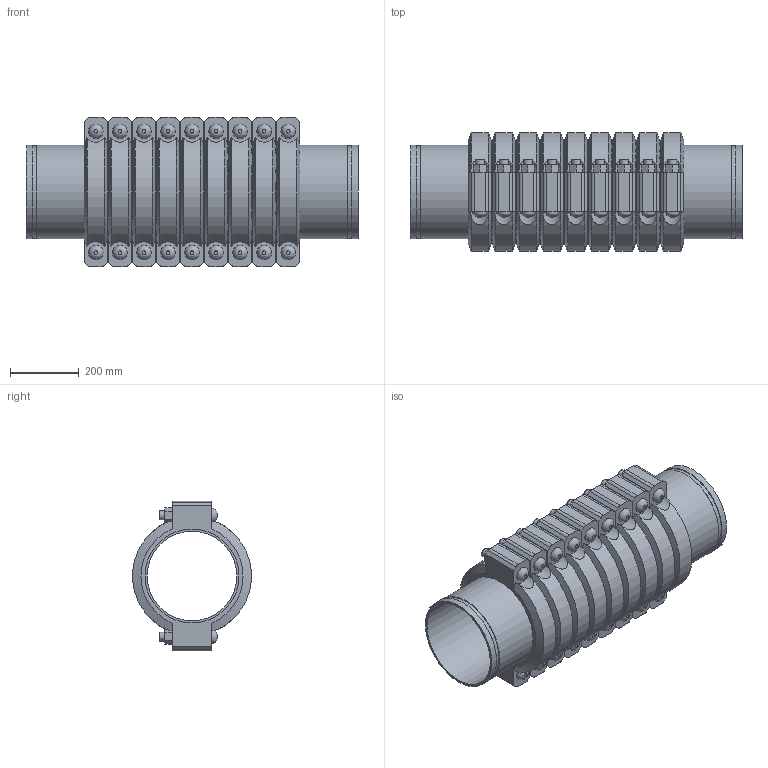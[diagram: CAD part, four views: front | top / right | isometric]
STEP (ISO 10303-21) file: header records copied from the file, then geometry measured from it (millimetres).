
FILE_DESCRIPTION(/* description */ ('VIC EXPANSION JOINT 9 COUPLINGS COMPRESSED STYLE 155 (OGS)','CAx-IF Rec.Pracs.---Representation and Presentation of Product Manufacturing Information (PMI)---4.0---2014-10-13'),/* implementation_level */ '2;1');
FILE_NAME(/* name */ 'C:\Users\kkamble\AppData\Roaming\Autodesk\ApplicationPlugins\Victaulic.Temp\A901\Victaulic_IPS_Expansion Joint_Compressed_9 Couplings_Style 155 (OGS)_10 (250).stp',/* time_stamp */ '2021-06-27T00:39:01+02:00',/* author */ ('kkamble'),/* organization */ ('Victaulic'),/* preprocessor_version */ 'ST-DEVELOPER v17.2',/* originating_system */ 'Autodesk Inventor 2019',/* authorisation */ '');
FILE_SCHEMA (('AP242_MANAGED_MODEL_BASED_3D_ENGINEERING_MIM_LF { 1 0 10303 442 1 1 4 }'));
Length unit declared in the file: inch
Products named in the file (4): 155-10.0; Nipple-10.0; Nipple-10.0_1; 077-9 Coup-10.0
Assembly tree (19 placements, depth 2):
  155-10.0
    Nipple-10.0  x2
    Nipple-10.0_1  x8
    077-9 Coup-10.0  x9
Bounding box: 965.2 x 344.9 x 435.1 mm (x, y, z)
Volume: 30903838.5 mm3; surface area: 4310559.7 mm2
Topology: 19 solids, 37 shells, 669 faces, 1605 edges, 1122 vertices
Faces by surface type: plane 384, cylinder 231, cone 36, bspline 18
Full cylindrical faces by diameter (mm): 25.4 x36, 27.432 x18, 260.35 x10, 264.16 x9, 268.275 x20, 273.05 x48
Entity records: 3146 total; most frequent: CARTESIAN_POINT 683, DIRECTION 493, ORIENTED_EDGE 410, EDGE_CURVE 205, AXIS2_PLACEMENT_3D 202, VERTEX_POINT 146, EDGE_LOOP 111, CIRCLE 96
